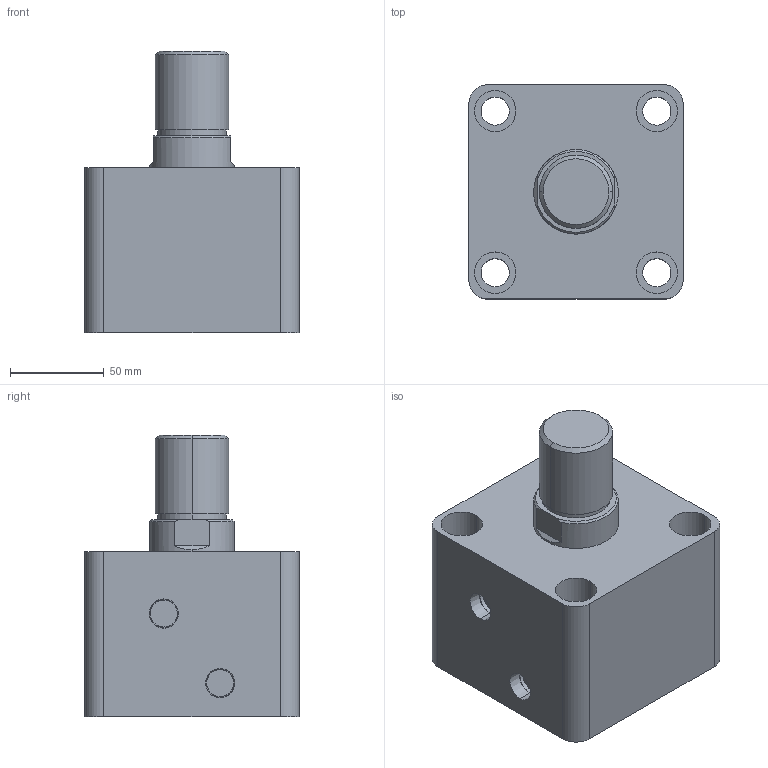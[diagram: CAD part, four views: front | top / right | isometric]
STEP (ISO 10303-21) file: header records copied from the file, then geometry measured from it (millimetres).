
FILE_DESCRIPTION (( 'STEP AP203' ), '1' );
FILE_NAME ('HTB-SD80-10W.STEP', '2019-10-07T08:13:08', ( '微软用户' ), ( '微软中国' ), 'SwSTEP 2.0', 'SolidWorks 2012', '' );
FILE_SCHEMA (( 'CONFIG_CONTROL_DESIGN' ));
Length unit declared in the file: millimetre
Products named in the file (3): HTB-SD80-10W; HTB-SD80-10W活塞杆; HTB-SD80-10掛极
Assembly tree (2 placements, depth 2):
  HTB-SD80-10W
    HTB-SD80-10掛极
    HTB-SD80-10W活塞杆
Bounding box: 114 x 114 x 150 mm (x, y, z)
Volume: 1090669.1 mm3; surface area: 136380.7 mm2
Topology: 2 solids, 2 shells, 87 faces, 190 edges, 124 vertices
Faces by surface type: cylinder 44, plane 29, cone 8, torus 6
Entity records: 2761 total; most frequent: DIRECTION 478, CARTESIAN_POINT 434, ORIENTED_EDGE 380, AXIS2_PLACEMENT_3D 204, EDGE_CURVE 190, VERTEX_POINT 124, CIRCLE 112, EDGE_LOOP 112
